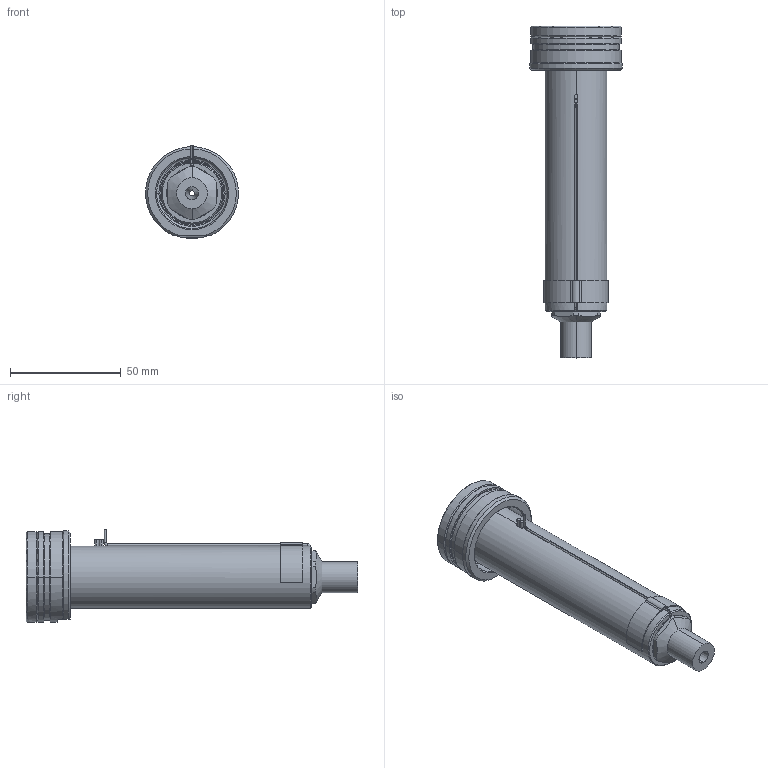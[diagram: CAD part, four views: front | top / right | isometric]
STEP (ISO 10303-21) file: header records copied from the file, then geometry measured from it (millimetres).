
FILE_DESCRIPTION((''),'2;1');
FILE_NAME('EO10_VG-ST_ESG_120_SW','2024-02-19T12:48:48',('sundharh'),(''),'CREO PARAMETRIC BY PTC INC, 2023154','CREO PARAMETRIC BY PTC INC, 2023154','');
FILE_SCHEMA(('CONFIG_CONTROL_DESIGN'));
Length unit declared in the file: millimetre
Products named in the file (1): EO10_VG-ST_ESG_120_SW
Bounding box: 41.85 x 150 x 42.02 mm (x, y, z)
Volume: 84772.8 mm3; surface area: 23305.2 mm2
Topology: 1 solids, 1 shells, 164 faces, 414 edges, 256 vertices
Faces by surface type: cylinder 63, plane 44, cone 33, torus 17, bspline 5, sphere 2
Entity records: 5647 total; most frequent: CARTESIAN_POINT 1615, DIRECTION 887, ORIENTED_EDGE 820, EDGE_CURVE 410, AXIS2_PLACEMENT_3D 366, VERTEX_POINT 256, CIRCLE 207, EDGE_LOOP 178
